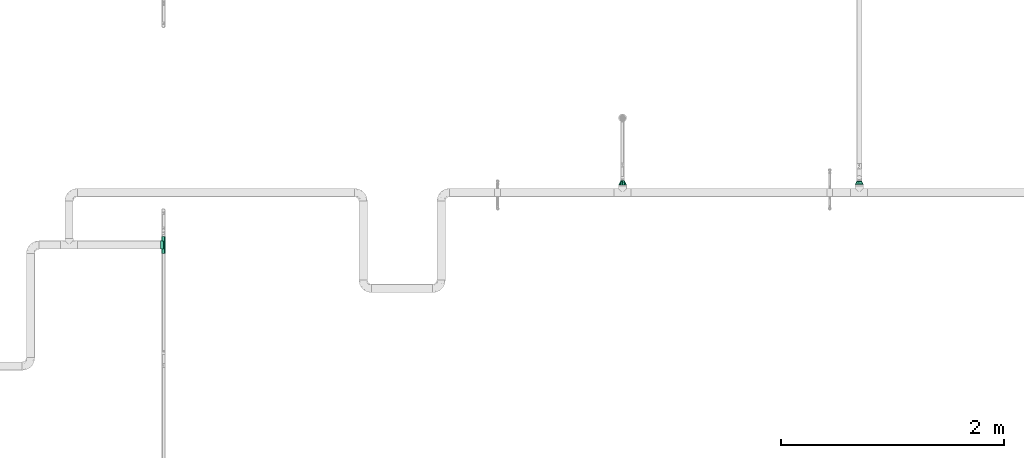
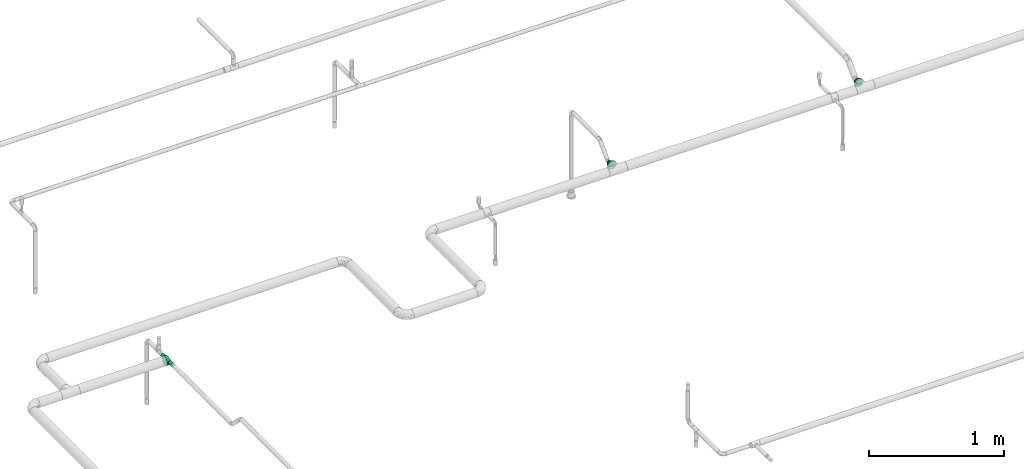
# One storey, part 47 of 51: 3 flow fittings.
"""IFC2X3 building model written with IfcOpenShell, lengths in millimetres."""

from ifc_helpers import new_model, entity, si_unit, converted_unit, derived_unit, direction, frame, origin_with_axes, place, context, subcontext, project, spatial, open_shell, surface_model, source, transform, mapped, type_object, element, save


model = new_model("IFC2X3")

# Units and contexts
model_context = context("Model", 3, precision=0.01, world=frame((0.0, 4.29681676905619e-09, 0.0)), true_north=direction((4.01073788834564e-13, 1.0)))
plan_context = context("Plan", 3, precision=0.01, world=frame((0.0, 4.29681676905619e-09, 0.0)), true_north=direction((4.01073788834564e-13, 1.0)))
body_context = subcontext(model_context, "Body", "Model", "MODEL_VIEW")
ifc_project = project(units=[converted_unit("PLANEANGLEUNIT", "DEGREE", entity("IfcPositiveLengthMeasure", 0.0174532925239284), si_unit("PLANEANGLEUNIT", "RADIAN"), dimensions=[0, 0, 0, 0, 0, 0, 0]), si_unit("AREAUNIT", "SQUARE_METRE"), si_unit("LENGTHUNIT", "METRE", prefix="MILLI"), si_unit("MASSUNIT", "GRAM", prefix="KILO"), si_unit("POWERUNIT", "WATT"), si_unit("PRESSUREUNIT", "PASCAL"), si_unit("FORCEUNIT", "NEWTON", prefix="KILO"), si_unit("ELECTRICVOLTAGEUNIT", "VOLT"), si_unit("ELECTRICCURRENTUNIT", "AMPERE"), si_unit("THERMODYNAMICTEMPERATUREUNIT", "DEGREE_CELSIUS"), si_unit("TIMEUNIT", "SECOND"), si_unit("VOLUMEUNIT", "CUBIC_METRE"), derived_unit("LINEARVELOCITYUNIT", [(si_unit("LENGTHUNIT", "METRE"), 1), (si_unit("TIMEUNIT", "SECOND"), -1)]), derived_unit("VOLUMETRICFLOWRATEUNIT", [(si_unit("VOLUMEUNIT", "CUBIC_METRE"), 1), (si_unit("TIMEUNIT", "SECOND"), -1)]), derived_unit("THERMALTRANSMITTANCEUNIT", [(si_unit("POWERUNIT", "WATT"), 1), (si_unit("THERMODYNAMICTEMPERATUREUNIT", "KELVIN"), -1), (si_unit("AREAUNIT", "SQUARE_METRE"), -1)]), derived_unit("SOUNDPRESSUREUNIT", [(si_unit("PRESSUREUNIT", "PASCAL"), 1)])], contexts=[model_context, plan_context])

# Site, building, storey
site_placement = place(None, frame((0.0, -4.29681676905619e-09, 0.0), z_axis=(0.0, 0.0, 1.0), x_axis=(1.0, 0.0, 0.0)))
site = spatial("IfcSite", under=ifc_project, at=site_placement, Name="ENGM", CompositionType="ELEMENT")
building_placement = place(site_placement, frame((0.0, 4.29681676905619e-09, 0.0), z_axis=(0.0, 0.0, 1.0), x_axis=(1.0, 0.0, 0.0)))
building = spatial("IfcBuilding", under=site, at=building_placement, Name="TH", CompositionType="ELEMENT")
storey_placement = place(building_placement, frame((0.0, 0.0, 210200.0), z_axis=(0.0, 0.0, 1.0), x_axis=(1.0, 0.0, 0.0)))
storey = spatial("IfcBuildingStorey", under=building, at=storey_placement, Name="Nivå F - 0,7 m", CompositionType="ELEMENT", Elevation=210200.0)

# Flow fittings
pipe_fitting_type_1 = type_object("IfcPipeFittingType", Name="magi_pipe_fe_reducer_centric_short_NOR", PredefinedType="TRANSITION")
shared_shape_1 = source(origin_with_axes(), body_context, "Body", "SurfaceModel", [
    surface_model("IfcShellBasedSurfaceModel", [(-2.0, 9.86101, 36.80177), (-2.0, -38.1, 0.0), (-2.0, 0.0, 38.1), (-2.0, 26.94077, 26.94077), (-2.0, 19.05, 32.99557), (-2.0, 32.99557, 19.05), (-2.0, 36.80177, 9.86101), (-2.0, -9.86101, 36.80177), (-2.0, -26.94077, 26.94077), (-2.0, -19.05, 32.99557), (-2.0, -32.99557, 19.05), (-2.0, -36.80177, 9.86101), (-2.0, 36.80177, -9.86101), (-2.0, -32.99557, -19.05), (-2.0, 9.86101, -36.80177), (-2.0, 32.99557, -19.05), (-2.0, 26.94077, -26.94077), (-2.0, 19.05, -32.99557), (-2.0, -26.94077, -26.94077), (-2.0, -36.80177, -9.86101), (-2.0, -19.05, -32.99557), (-2.0, 0.0, -38.1), (-2.0, -9.86101, -36.80177), (-2.0, 38.1, 0.0), (0.0, 9.86101, -36.80177), (0.0, 19.05, -32.99557), (0.0, 26.94077, -26.94077), (0.0, 36.80177, -9.86101), (0.0, -26.94077, -26.94077), (0.0, 32.99557, -19.05), (0.0, -38.1, 0.0), (0.0, 0.0, -38.1), (0.0, -19.05, -32.99557), (0.0, -9.86101, -36.80177), (0.0, -32.99557, -19.05), (0.0, -36.80177, -9.86101), (0.0, 38.1, 0.0), (0.0, 36.80177, 9.86101), (0.0, 32.99557, 19.05), (0.0, 26.94077, 26.94077), (0.0, 0.0, 38.1), (0.0, 9.86101, 36.80177), (0.0, 19.05, 32.99557), (0.0, -9.86101, 36.80177), (0.0, -32.99557, 19.05), (0.0, -36.80177, 9.86101), (0.0, -26.94077, 26.94077), (0.0, -19.05, 32.99557), (44.4, 4.37404, -16.32415), (44.4, 8.45, -14.63583), (44.4, 11.9501, -11.9501), (44.4, -8.45, -14.63583), (44.4, 16.32415, -4.37404), (44.4, 16.32415, 4.37404), (44.4, 14.63583, -8.45), (44.4, 0.0, -16.9), (44.4, -4.37404, -16.32415), (44.4, -11.9501, -11.9501), (44.4, -16.32415, -4.37404), (44.4, -14.63583, -8.45), (44.4, -16.32415, 4.37404), (44.4, 16.9, 0.0), (44.4, 14.63583, 8.45), (44.4, 11.9501, 11.9501), (44.4, 4.37404, 16.32415), (44.4, 0.0, 16.9), (44.4, 8.45, 14.63583), (44.4, -4.37404, 16.32415), (44.4, -14.63583, 8.45), (44.4, -16.9, 0.0), (44.4, -8.45, 14.63583), (44.4, -11.9501, 11.9501), (42.4, 4.37404, 16.32415), (42.4, -14.63583, 8.45), (42.4, 0.0, 16.9), (42.4, 16.32415, 4.37404), (42.4, 8.45, 14.63583), (42.4, 11.9501, 11.9501), (42.4, 14.63583, 8.45), (42.4, -8.45, 14.63583), (42.4, -11.9501, 11.9501), (42.4, -4.37404, 16.32415), (42.4, -16.32415, 4.37404), (42.4, -16.32415, -4.37404), (42.4, -16.9, 0.0), (42.4, -8.45, -14.63583), (42.4, 16.32415, -4.37404), (42.4, 11.9501, -11.9501), (42.4, 14.63583, -8.45), (42.4, 8.45, -14.63583), (42.4, 4.37404, -16.32415), (42.4, 0.0, -16.9), (42.4, -11.9501, -11.9501), (42.4, -14.63583, -8.45), (42.4, -4.37404, -16.32415), (42.4, 16.9, 0.0), (0.0, 26.02278, -26.02278), (42.4, 13.18758, -8.96258), (42.4, 14.42505, -5.97505), (42.4, 5.97505, -14.42505), (0.0, 9.525, -35.54778), (42.4, 2.98753, -15.66253), (0.0, 35.54778, -9.525), (42.4, -5.97505, -14.42505), (42.4, -8.96258, -13.18758), (42.4, -2.98753, -15.66253), (42.4, 8.96258, -13.18758), (42.4, -13.18758, -8.96258), (0.0, -26.02278, -26.02278), (42.4, -15.66253, -2.98753), (0.0, -35.54778, -9.525), (42.4, 15.66253, -2.98753), (0.0, -9.525, -35.54778), (42.4, -14.42505, -5.97505), (0.0, -26.02278, 26.02278), (42.4, -13.18758, 8.96258), (42.4, -14.42505, 5.97505), (42.4, -5.97505, 14.42505), (0.0, -9.525, 35.54778), (42.4, -2.98753, 15.66253), (0.0, -35.54778, 9.525), (42.4, 5.97505, 14.42505), (42.4, 8.96258, 13.18758), (42.4, 2.98753, 15.66253), (42.4, -8.96258, 13.18758), (42.4, 13.18758, 8.96258), (0.0, 26.02278, 26.02278), (42.4, 15.66253, 2.98753), (0.0, 35.54778, 9.525), (42.4, -15.66253, 2.98753), (0.0, 9.525, 35.54778), (42.4, 14.42505, 5.97505)], [open_shell([[[0, 1, 2]], [[3, 0, 4]], [[3, 5, 6]], [[3, 6, 0]], [[1, 0, 6]], [[7, 8, 9]], [[8, 7, 10]], [[10, 1, 11]], [[1, 10, 7]], [[7, 2, 1]], [[6, 12, 1]], [[13, 1, 12]], [[14, 12, 15]], [[16, 17, 14]], [[16, 14, 15]], [[13, 12, 14]], [[14, 18, 13]], [[19, 1, 13]], [[20, 21, 22]], [[20, 18, 14]], [[20, 14, 21]], [[6, 23, 12]], [[24, 25, 26]], [[24, 26, 27]], [[24, 27, 28]], [[27, 26, 29]], [[28, 27, 30]], [[31, 32, 33]], [[31, 24, 32]], [[28, 32, 24]], [[28, 30, 34]], [[34, 30, 35]], [[27, 36, 37]], [[37, 38, 39]], [[37, 39, 40]], [[41, 40, 39]], [[41, 39, 42]], [[37, 40, 43]], [[30, 44, 45]], [[44, 30, 43]], [[46, 43, 47]], [[43, 46, 44]], [[30, 37, 43]], [[37, 30, 27]], [[19, 35, 1]], [[13, 34, 19]], [[32, 18, 20]], [[13, 18, 28]], [[33, 20, 22]], [[19, 34, 35]], [[35, 30, 1]], [[33, 32, 20]], [[28, 18, 32]], [[28, 34, 13]], [[31, 33, 22]], [[22, 21, 31]], [[14, 24, 21]], [[17, 25, 14]], [[29, 16, 15]], [[17, 16, 26]], [[27, 15, 12]], [[17, 26, 25]], [[25, 24, 14]], [[36, 27, 12]], [[29, 15, 27]], [[29, 26, 16]], [[23, 36, 12]], [[21, 24, 31]], [[6, 37, 23]], [[5, 38, 6]], [[42, 3, 4]], [[5, 3, 39]], [[41, 4, 0]], [[6, 38, 37]], [[37, 36, 23]], [[41, 42, 4]], [[39, 3, 42]], [[39, 38, 5]], [[40, 41, 0]], [[0, 2, 40]], [[7, 43, 2]], [[9, 47, 7]], [[44, 8, 10]], [[9, 8, 46]], [[45, 10, 11]], [[9, 46, 47]], [[47, 43, 7]], [[30, 45, 11]], [[44, 10, 45]], [[44, 46, 8]], [[1, 30, 11]], [[2, 43, 40]], [[29, 25, 38]], [[30, 32, 34]], [[30, 31, 32]], [[36, 29, 38]], [[48, 49, 50]], [[51, 48, 50]], [[50, 52, 53]], [[52, 50, 54]], [[50, 53, 51]], [[55, 51, 56]], [[55, 48, 51]], [[57, 58, 59]], [[58, 57, 51]], [[51, 60, 58]], [[53, 52, 61]], [[53, 62, 63]], [[53, 63, 64]], [[64, 65, 53]], [[64, 63, 66]], [[53, 65, 67]], [[53, 68, 60]], [[69, 58, 60]], [[68, 70, 71]], [[70, 68, 67]], [[67, 68, 53]], [[60, 51, 53]], [[72, 73, 74]], [[75, 72, 76]], [[77, 78, 75]], [[77, 75, 76]], [[73, 72, 75]], [[79, 73, 80]], [[79, 81, 74]], [[74, 73, 79]], [[82, 73, 75]], [[82, 83, 84]], [[82, 75, 85]], [[75, 86, 87]], [[87, 86, 88]], [[87, 89, 90]], [[85, 75, 87]], [[90, 91, 87]], [[83, 92, 93]], [[92, 83, 85]], [[85, 91, 94]], [[83, 82, 85]], [[87, 91, 85]], [[86, 75, 95]], [[83, 58, 84]], [[93, 59, 83]], [[51, 92, 85]], [[93, 92, 57]], [[56, 85, 94]], [[83, 59, 58]], [[58, 69, 84]], [[56, 51, 85]], [[57, 92, 51]], [[57, 59, 93]], [[55, 56, 94]], [[94, 91, 55]], [[90, 48, 91]], [[89, 49, 90]], [[54, 87, 88]], [[89, 87, 50]], [[52, 88, 86]], [[89, 50, 49]], [[49, 48, 90]], [[61, 52, 86]], [[54, 88, 52]], [[54, 50, 87]], [[95, 61, 86]], [[91, 48, 55]], [[75, 53, 95]], [[78, 62, 75]], [[66, 77, 76]], [[78, 77, 63]], [[64, 76, 72]], [[75, 62, 53]], [[53, 61, 95]], [[64, 66, 76]], [[63, 77, 66]], [[63, 62, 78]], [[65, 64, 72]], [[72, 74, 65]], [[81, 67, 74]], [[79, 70, 81]], [[68, 80, 73]], [[79, 80, 71]], [[60, 73, 82]], [[79, 71, 70]], [[70, 67, 81]], [[69, 60, 82]], [[68, 73, 60]], [[68, 71, 80]], [[84, 69, 82]], [[74, 67, 65]], [[74, 80, 95]], [[95, 77, 74]], [[80, 92, 95]], [[91, 95, 92]], [[87, 95, 91]], [[92, 80, 84]], [[47, 40, 42]], [[30, 42, 38]], [[47, 30, 44]], [[30, 47, 42]], [[38, 31, 30]], [[25, 31, 38]], [[96, 97, 87]], [[29, 98, 97]], [[99, 100, 25]], [[101, 31, 100]], [[98, 29, 102]], [[32, 103, 104]], [[105, 31, 91]], [[100, 99, 101]], [[29, 97, 96]], [[106, 99, 25]], [[107, 108, 92]], [[101, 91, 31]], [[92, 108, 104]], [[30, 109, 84]], [[96, 106, 25]], [[109, 30, 110]], [[102, 111, 98]], [[95, 111, 36]], [[31, 105, 112]], [[107, 113, 34]], [[36, 111, 102]], [[110, 113, 109]], [[34, 113, 110]], [[103, 32, 112]], [[106, 96, 87]], [[108, 107, 34]], [[32, 104, 108]], [[105, 103, 112]], [[114, 115, 80]], [[44, 116, 115]], [[117, 118, 47]], [[119, 40, 118]], [[116, 44, 120]], [[42, 121, 122]], [[123, 40, 74]], [[118, 117, 119]], [[44, 115, 114]], [[124, 117, 47]], [[125, 126, 77]], [[119, 74, 40]], [[77, 126, 122]], [[36, 127, 95]], [[114, 124, 47]], [[127, 36, 128]], [[120, 129, 116]], [[84, 129, 30]], [[40, 123, 130]], [[125, 131, 38]], [[30, 129, 120]], [[128, 131, 127]], [[38, 131, 128]], [[121, 42, 130]], [[124, 114, 80]], [[126, 125, 38]], [[42, 122, 126]], [[123, 121, 130]]])]),
])
flow_fitting_1_placement = place(storey_placement, frame((901220.93402, 484396.91823, 2933.0), z_axis=(0.0, 0.0, 1.0), x_axis=(0.0, 1.0, 0.0)))
element("IfcFlowFitting", 1, at=flow_fitting_1_placement, inside=storey, type_object=pipe_fitting_type_1, Name="magi_pipe_fe_reducer_centric_short_NOR", context=body_context, shape_type="MappedRepresentation", body=[
    mapped(shared_shape_1, transform((0.0, 0.0, 0.0), scale=1.0)),
])
shared_shape_2 = source(origin_with_axes(), body_context, "Body", "SurfaceModel", [
    surface_model("IfcShellBasedSurfaceModel", [(-2.0, 9.86101, 36.80177), (-2.0, -38.1, 0.0), (-2.0, 0.0, 38.1), (-2.0, 26.94077, 26.94077), (-2.0, 19.05, 32.99557), (-2.0, 32.99557, 19.05), (-2.0, 36.80177, 9.86101), (-2.0, -9.86101, 36.80177), (-2.0, -26.94077, 26.94077), (-2.0, -19.05, 32.99557), (-2.0, -32.99557, 19.05), (-2.0, -36.80177, 9.86101), (-2.0, 36.80177, -9.86101), (-2.0, -32.99557, -19.05), (-2.0, 9.86101, -36.80177), (-2.0, 32.99557, -19.05), (-2.0, 26.94077, -26.94077), (-2.0, 19.05, -32.99557), (-2.0, -26.94077, -26.94077), (-2.0, -36.80177, -9.86101), (-2.0, -19.05, -32.99557), (-2.0, 0.0, -38.1), (-2.0, -9.86101, -36.80177), (-2.0, 38.1, 0.0), (0.0, 9.86101, -36.80177), (0.0, 19.05, -32.99557), (0.0, 26.94077, -26.94077), (0.0, 36.80177, -9.86101), (0.0, -26.94077, -26.94077), (0.0, 32.99557, -19.05), (0.0, -38.1, 0.0), (0.0, 0.0, -38.1), (0.0, -19.05, -32.99557), (0.0, -9.86101, -36.80177), (0.0, -32.99557, -19.05), (0.0, -36.80177, -9.86101), (0.0, 38.1, 0.0), (0.0, 36.80177, 9.86101), (0.0, 32.99557, 19.05), (0.0, 26.94077, 26.94077), (0.0, 0.0, 38.1), (0.0, 9.86101, 36.80177), (0.0, 19.05, 32.99557), (0.0, -9.86101, 36.80177), (0.0, -32.99557, 19.05), (0.0, -36.80177, 9.86101), (0.0, -26.94077, 26.94077), (0.0, -19.05, 32.99557), (29.8, 12.1, -20.95781), (29.8, -24.2, 0.0), (29.8, 6.26342, -23.37541), (29.8, 23.37541, -6.26342), (29.8, 17.11198, -17.11198), (29.8, 20.95781, -12.1), (29.8, -17.11198, -17.11198), (29.8, -6.26342, -23.37541), (29.8, -12.1, -20.95781), (29.8, 0.0, -24.2), (29.8, -23.37541, -6.26342), (29.8, -20.95781, -12.1), (29.8, 24.2, 0.0), (29.8, 23.37541, 6.26342), (29.8, 20.95781, 12.1), (29.8, 17.11198, 17.11198), (29.8, 12.1, 20.95781), (29.8, 6.26342, 23.37541), (29.8, 0.0, 24.2), (29.8, -23.37541, 6.26342), (29.8, -17.11198, 17.11198), (29.8, -20.95781, 12.1), (29.8, -6.26342, 23.37541), (29.8, -12.1, 20.95781), (27.8, 0.0, 24.2), (27.8, 6.26342, 23.37541), (27.8, 12.1, 20.95781), (27.8, 17.11198, 17.11198), (27.8, 20.95781, 12.1), (27.8, 23.37541, 6.26342), (27.8, -23.37541, 6.26342), (27.8, -17.11198, -17.11198), (27.8, -17.11198, 17.11198), (27.8, -12.1, 20.95781), (27.8, -6.26342, 23.37541), (27.8, -20.95781, 12.1), (27.8, -24.2, 0.0), (27.8, 24.2, 0.0), (27.8, 17.11198, -17.11198), (27.8, 23.37541, -6.26342), (27.8, 20.95781, -12.1), (27.8, 12.1, -20.95781), (27.8, 6.26342, -23.37541), (27.8, -23.37541, -6.26342), (27.8, -20.95781, -12.1), (27.8, -6.26342, -23.37541), (27.8, -12.1, -20.95781), (27.8, 0.0, -24.2), (27.8, -7.47821, 23.01557), (27.8, -19.57821, 14.2244), (27.8, 19.57821, 14.2244), (27.8, 7.47821, 23.01557), (27.8, -7.47821, -23.01557), (27.8, -19.57821, -14.2244), (27.8, 7.47821, -23.01557), (27.8, 19.57821, -14.2244), (0.0, 9.525, -35.54778), (0.0, -9.525, -35.54778), (27.8, 0.0, -23.01557), (27.8, 13.52821, -18.61999), (0.0, 26.02278, -26.02278), (27.8, 21.8891, -7.1122), (0.0, 35.43294, -9.95361), (27.8, -13.52821, -18.61999), (27.8, -21.8891, -7.1122), (0.0, -35.43294, -9.95361), (0.0, -26.02278, -26.02278), (0.0, -9.525, 35.54778), (0.0, 9.525, 35.54778), (27.8, 0.0, 23.01557), (27.8, -13.52821, 18.61999), (0.0, -26.02278, 26.02278), (27.8, -21.8891, 7.1122), (0.0, -35.43294, 9.95361), (27.8, 13.52821, 18.61999), (27.8, 21.8891, 7.1122), (0.0, 35.43294, 9.95361), (0.0, 26.02278, 26.02278)], [open_shell([[[0, 1, 2]], [[3, 0, 4]], [[3, 5, 6]], [[3, 6, 0]], [[1, 0, 6]], [[7, 8, 9]], [[8, 7, 10]], [[10, 1, 11]], [[1, 10, 7]], [[7, 2, 1]], [[6, 12, 1]], [[13, 1, 12]], [[14, 12, 15]], [[16, 17, 14]], [[16, 14, 15]], [[13, 12, 14]], [[14, 18, 13]], [[19, 1, 13]], [[20, 21, 22]], [[20, 18, 14]], [[20, 14, 21]], [[6, 23, 12]], [[24, 25, 26]], [[24, 26, 27]], [[24, 27, 28]], [[27, 26, 29]], [[28, 27, 30]], [[31, 32, 33]], [[31, 24, 32]], [[28, 32, 24]], [[28, 30, 34]], [[34, 30, 35]], [[27, 36, 37]], [[37, 38, 39]], [[37, 39, 40]], [[41, 40, 39]], [[41, 39, 42]], [[37, 40, 43]], [[30, 44, 45]], [[44, 30, 43]], [[46, 43, 47]], [[43, 46, 44]], [[30, 37, 43]], [[37, 30, 27]], [[19, 35, 1]], [[13, 34, 19]], [[32, 18, 20]], [[13, 18, 28]], [[33, 20, 22]], [[19, 34, 35]], [[35, 30, 1]], [[33, 32, 20]], [[28, 18, 32]], [[28, 34, 13]], [[31, 33, 22]], [[22, 21, 31]], [[14, 24, 21]], [[17, 25, 14]], [[29, 16, 15]], [[17, 16, 26]], [[27, 15, 12]], [[17, 26, 25]], [[25, 24, 14]], [[36, 27, 12]], [[29, 15, 27]], [[29, 26, 16]], [[23, 36, 12]], [[21, 24, 31]], [[6, 37, 23]], [[5, 38, 6]], [[42, 3, 4]], [[5, 3, 39]], [[41, 4, 0]], [[6, 38, 37]], [[37, 36, 23]], [[41, 42, 4]], [[39, 3, 42]], [[39, 38, 5]], [[40, 41, 0]], [[0, 2, 40]], [[7, 43, 2]], [[9, 47, 7]], [[44, 8, 10]], [[9, 8, 46]], [[45, 10, 11]], [[9, 46, 47]], [[47, 43, 7]], [[30, 45, 11]], [[44, 10, 45]], [[44, 46, 8]], [[1, 30, 11]], [[2, 43, 40]], [[40, 42, 38]], [[40, 38, 44]], [[40, 44, 47]], [[44, 38, 30]], [[29, 25, 38]], [[30, 32, 34]], [[30, 31, 32]], [[36, 29, 38]], [[38, 31, 30]], [[25, 31, 38]], [[48, 49, 50]], [[51, 48, 52]], [[48, 51, 49]], [[51, 52, 53]], [[49, 54, 50]], [[55, 54, 56]], [[55, 57, 50]], [[54, 58, 59]], [[55, 50, 54]], [[54, 49, 58]], [[60, 49, 51]], [[61, 62, 63]], [[60, 63, 49]], [[64, 65, 66]], [[64, 66, 63]], [[49, 63, 66]], [[67, 68, 69]], [[70, 67, 49]], [[68, 70, 71]], [[70, 68, 67]], [[49, 66, 70]], [[63, 60, 61]], [[72, 73, 74]], [[72, 74, 75]], [[75, 76, 77]], [[72, 75, 78]], [[75, 79, 78]], [[72, 80, 81]], [[81, 82, 72]], [[80, 78, 83]], [[78, 80, 72]], [[78, 79, 84]], [[75, 77, 85]], [[86, 85, 87]], [[86, 87, 88]], [[89, 90, 85]], [[89, 85, 86]], [[90, 79, 75]], [[91, 79, 92]], [[84, 79, 91]], [[79, 93, 94]], [[79, 90, 93]], [[95, 93, 90]], [[75, 85, 90]], [[91, 58, 84]], [[92, 59, 91]], [[56, 79, 94]], [[92, 79, 54]], [[55, 94, 93]], [[91, 59, 58]], [[58, 49, 84]], [[55, 56, 94]], [[54, 79, 56]], [[54, 59, 92]], [[57, 55, 93]], [[93, 95, 57]], [[90, 50, 95]], [[89, 48, 90]], [[53, 86, 88]], [[89, 86, 52]], [[51, 88, 87]], [[89, 52, 48]], [[48, 50, 90]], [[60, 51, 87]], [[53, 88, 51]], [[53, 52, 86]], [[85, 60, 87]], [[95, 50, 57]], [[77, 61, 85]], [[76, 62, 77]], [[64, 75, 74]], [[76, 75, 63]], [[65, 74, 73]], [[77, 62, 61]], [[61, 60, 85]], [[65, 64, 74]], [[63, 75, 64]], [[63, 62, 76]], [[66, 65, 73]], [[73, 72, 66]], [[82, 70, 72]], [[81, 71, 82]], [[69, 80, 83]], [[81, 80, 68]], [[67, 83, 78]], [[81, 68, 71]], [[71, 70, 82]], [[49, 67, 78]], [[69, 83, 67]], [[69, 68, 80]], [[84, 49, 78]], [[72, 70, 66]], [[96, 97, 98]], [[96, 98, 99]], [[98, 97, 85]], [[97, 100, 85]], [[100, 97, 101]], [[102, 103, 85]], [[85, 100, 102]], [[97, 84, 101]], [[104, 25, 102]], [[100, 105, 106]], [[107, 108, 103]], [[29, 109, 103]], [[110, 85, 109]], [[32, 100, 111]], [[29, 110, 109]], [[34, 112, 113]], [[108, 107, 25]], [[29, 103, 108]], [[113, 112, 84]], [[101, 34, 114]], [[85, 110, 36]], [[100, 32, 105]], [[107, 102, 25]], [[114, 111, 101]], [[112, 34, 101]], [[84, 30, 113]], [[32, 111, 114]], [[106, 105, 31]], [[104, 106, 31]], [[106, 104, 102]], [[115, 47, 96]], [[99, 116, 117]], [[118, 119, 97]], [[44, 120, 97]], [[121, 84, 120]], [[42, 99, 122]], [[44, 121, 120]], [[38, 123, 124]], [[119, 118, 47]], [[44, 97, 119]], [[124, 123, 85]], [[98, 38, 125]], [[84, 121, 30]], [[99, 42, 116]], [[118, 96, 47]], [[125, 122, 98]], [[123, 38, 98]], [[85, 36, 124]], [[42, 122, 125]], [[117, 116, 40]], [[115, 117, 40]], [[117, 115, 96]]])]),
])
flow_fitting_2_placement = place(storey_placement, frame((903344.15403, 484402.56725, 2933.0), z_axis=(0.0, 0.0, 1.0), x_axis=(0.0, 1.0, 0.0)))
element("IfcFlowFitting", 2, at=flow_fitting_2_placement, inside=storey, type_object=pipe_fitting_type_1, Name="magi_pipe_fe_reducer_centric_short_NOR", context=body_context, shape_type="MappedRepresentation", body=[
    mapped(shared_shape_2, transform((0.0, 0.0, 0.0), scale=1.0)),
])
pipe_fitting_type_2 = type_object("IfcPipeFittingType", Name="magi_pipe_fe_tee_centric_90_NOR", PredefinedType="JUNCTION")
shared_shape_3 = source(origin_with_axes(), body_context, "Body", "SurfaceModel", [
    surface_model("IfcShellBasedSurfaceModel", [(-76.2, 0.0, -16.9), (-76.2, -16.9, 0.0), (-76.2, 4.37404, -16.32415), (-76.2, 8.45, -14.63583), (-76.2, 11.9501, -11.9501), (-76.2, 16.32415, -4.37404), (-76.2, 14.63583, -8.45), (-76.2, -11.9501, -11.9501), (-76.2, -14.63583, -8.45), (-76.2, -8.45, -14.63583), (-76.2, -4.37404, -16.32415), (-76.2, -16.32415, -4.37404), (-76.2, -16.32415, 4.37404), (-76.2, 16.32415, 4.37404), (-76.2, 16.9, 0.0), (-76.2, 8.45, 14.63583), (-76.2, 14.63583, 8.45), (-76.2, -8.45, 14.63583), (-76.2, 11.9501, 11.9501), (-76.2, 4.37404, 16.32415), (-76.2, -11.9501, 11.9501), (-76.2, -14.63583, 8.45), (-76.2, -4.37404, 16.32415), (-76.2, 0.0, 16.9), (76.2, 4.37404, -16.32415), (76.2, -8.45, 14.63583), (76.2, 0.0, -16.9), (76.2, 11.9501, -11.9501), (76.2, 8.45, -14.63583), (76.2, 14.63583, -8.45), (76.2, 16.32415, -4.37404), (76.2, -8.45, -14.63583), (76.2, -14.63583, -8.45), (76.2, -11.9501, -11.9501), (76.2, -4.37404, -16.32415), (76.2, -16.9, 0.0), (76.2, -16.32415, -4.37404), (76.2, 16.32415, 4.37404), (76.2, 14.63583, 8.45), (76.2, 8.45, 14.63583), (76.2, 11.9501, 11.9501), (76.2, 4.37404, 16.32415), (76.2, -14.63583, 8.45), (76.2, -11.9501, 11.9501), (76.2, -16.32415, 4.37404), (76.2, 0.0, 16.9), (76.2, -4.37404, 16.32415), (76.2, 16.9, 0.0), (76.2, -16.61207, 2.18702), (37.90927, -16.46551, 3.80749), (37.64296, -15.83232, 5.59822), (38.00464, -16.68275, 1.90374), (76.2, -15.47999, 6.41202), (76.2, -13.29297, 10.20005), (36.99135, -14.19508, 8.97668), (37.37664, -15.19913, 7.38895), (35.33657, -8.96218, 14.20473), (76.2, -10.20005, 13.29297), (36.60606, -13.19103, 10.5644), (36.17239, -11.86941, 11.88437), (34.93443, -7.37659, 15.20513), (-37.90927, -16.46551, 3.80749), (-76.2, -16.61207, 2.18702), (-36.60606, -13.19103, 10.5644), (-36.17239, -11.86941, 11.88437), (-37.37664, -15.19913, 7.38895), (-76.2, -15.47999, 6.41202), (-37.64296, -15.83232, 5.59822), (-38.00464, -16.68275, 1.90374), (-38.1, -16.9, 0.0), (35.73871, -10.54778, 13.20433), (38.1, -16.9, 0.0), (-35.73871, -10.54778, 13.20433), (-76.2, -10.20005, 13.29297), (-35.33657, -8.96218, 14.20473), (-34.93443, -7.37659, 15.20513), (-76.2, -13.29297, 10.20005), (-36.99135, -14.19508, 8.97668), (-76.2, -6.41202, 15.47999), (76.2, -6.41202, 15.47999), (34.35774, -3.80189, 16.4668), (34.14674, 0.0, 16.9), (34.64608, -5.58924, 15.83597), (-34.14674, 0.0, 16.9), (-34.35774, -3.80189, 16.4668), (-34.64608, -5.58924, 15.83597), (37.64296, -15.83232, -5.59822), (76.2, -15.47999, -6.41202), (-35.73871, -10.54778, -13.20433), (-36.17239, -11.86941, -11.88437), (-76.2, -15.47999, -6.41202), (-37.37664, -15.19913, -7.38895), (-37.64296, -15.83232, -5.59822), (34.35774, -3.80189, -16.4668), (34.14674, 0.0, -16.9), (-37.90927, -16.46551, -3.80749), (-76.2, -10.20005, -13.29297), (-34.14674, 0.0, -16.9), (-76.2, -13.29297, -10.20005), (-36.99135, -14.19508, -8.97668), (-34.64608, -5.58924, -15.83597), (-76.2, -6.41202, -15.47999), (-34.35774, -3.80189, -16.4668), (-38.00464, -16.68275, -1.90374), (-36.60606, -13.19103, -10.5644), (-34.93443, -7.37659, -15.20513), (76.2, -6.41202, -15.47999), (34.64608, -5.58924, -15.83597), (38.00464, -16.68275, -1.90374), (76.2, -16.61207, -2.18702), (36.99135, -14.19508, -8.97668), (76.2, -13.29297, -10.20005), (35.73871, -10.54778, -13.20433), (76.2, -10.20005, -13.29297), (36.17239, -11.86941, -11.88437), (36.60606, -13.19103, -10.5644), (35.33657, -8.96218, -14.20473), (34.93443, -7.37659, -15.20513), (37.37664, -15.19913, -7.38895), (37.90927, -16.46551, -3.80749), (-35.33657, -8.96218, -14.20473), (-76.2, -16.61207, -2.18702), (0.0, -25.35, -38.1), (9.86101, -25.35, -36.80177), (19.05, -25.35, -32.99557), (26.94077, -25.35, -26.94077), (32.99557, -25.35, -19.05), (36.80177, -25.35, -9.86101), (0.0, -25.35, 38.1), (-26.94077, -25.35, -26.94077), (-9.86101, -25.35, -36.80177), (-19.05, -25.35, -32.99557), (-36.80177, -25.35, -9.86101), (-32.99557, -25.35, -19.05), (-32.99557, -25.35, 19.05), (-36.80177, -25.35, 9.86101), (-38.1, -25.35, 0.0), (19.05, -25.35, 32.99557), (36.80177, -25.35, 9.86101), (32.99557, -25.35, 19.05), (26.94077, -25.35, 26.94077), (9.86101, -25.35, 36.80177), (-26.94077, -25.35, 26.94077), (-19.05, -25.35, 32.99557), (-9.86101, -25.35, 36.80177), (38.1, -25.35, 0.0), (-37.45089, -25.35, 4.9305), (-23.55563, 0.0, 29.94565), (-29.5765, 0.0, 24.0175), (-16.37729, 0.0, 34.4005), (-8.3948, 0.0, 37.16365), (-0.00032, 0.0, 38.1), (8.3941, 0.0, 37.16382), (16.37638, 0.0, 34.40093), (23.55452, 0.0, 29.94653), (37.45089, -25.35, 4.9305), (29.57561, 0.0, 24.0186), (37.45089, -25.35, -4.9305), (29.57561, 0.0, -24.0186), (16.37638, 0.0, -34.40093), (23.55452, 0.0, -29.94653), (8.3941, 0.0, -37.16382), (-0.00032, 0.0, -38.1), (-37.45089, -25.35, -4.9305), (-23.55563, 0.0, -29.94565), (-29.5765, 0.0, -24.0175), (-16.37729, 0.0, -34.4005), (-8.3948, 0.0, -37.16365)], [open_shell([[[0, 1, 2]], [[3, 2, 4]], [[2, 5, 6]], [[4, 2, 6]], [[5, 2, 1]], [[7, 8, 9]], [[0, 10, 9]], [[11, 1, 8]], [[9, 8, 1]], [[9, 1, 0]], [[1, 12, 5]], [[13, 14, 15]], [[16, 13, 15]], [[17, 15, 14]], [[18, 16, 15]], [[19, 15, 17]], [[20, 17, 21]], [[12, 21, 17]], [[22, 23, 17]], [[14, 12, 17]], [[17, 23, 19]], [[5, 12, 14]], [[24, 25, 26]], [[27, 24, 28]], [[29, 30, 24]], [[29, 24, 27]], [[31, 26, 25]], [[31, 32, 33]], [[31, 34, 26]], [[32, 35, 36]], [[35, 32, 31]], [[31, 25, 35]], [[30, 25, 24]], [[30, 37, 38]], [[38, 39, 30]], [[39, 25, 30]], [[39, 38, 40]], [[39, 41, 25]], [[42, 25, 43]], [[25, 42, 44]], [[25, 45, 46]], [[44, 35, 25]], [[41, 45, 25]], [[37, 30, 47]], [[48, 44, 49]], [[44, 50, 49]], [[35, 48, 51]], [[44, 52, 50]], [[53, 54, 42]], [[52, 42, 55]], [[25, 56, 57]], [[43, 58, 53]], [[58, 43, 59]], [[25, 60, 56]], [[42, 54, 55]], [[61, 12, 62]], [[20, 63, 64]], [[65, 66, 67]], [[54, 53, 58]], [[61, 62, 68]], [[68, 1, 69]], [[70, 43, 57]], [[12, 61, 67]], [[35, 51, 71]], [[20, 64, 72]], [[43, 70, 59]], [[73, 74, 17]], [[17, 74, 75]], [[76, 21, 77]], [[20, 72, 73]], [[52, 55, 50]], [[48, 49, 51]], [[75, 78, 17]], [[76, 77, 63]], [[21, 65, 77]], [[60, 25, 79]], [[57, 56, 70]], [[80, 45, 81]], [[79, 82, 60]], [[82, 46, 80]], [[80, 46, 45]], [[63, 20, 76]], [[81, 45, 41]], [[38, 37, 13]], [[18, 39, 40]], [[16, 40, 38]], [[41, 39, 15]], [[14, 37, 47]], [[23, 83, 19]], [[74, 73, 72]], [[22, 84, 23]], [[85, 22, 78]], [[23, 84, 83]], [[78, 75, 85]], [[83, 81, 19]], [[22, 85, 84]], [[41, 19, 81]], [[15, 19, 41]], [[1, 68, 62]], [[15, 39, 18]], [[16, 18, 40]], [[13, 16, 38]], [[37, 14, 13]], [[12, 67, 66]], [[65, 21, 66]], [[46, 82, 79]], [[4, 29, 27]], [[36, 86, 87]], [[7, 88, 89]], [[90, 91, 92]], [[29, 5, 30]], [[5, 47, 30]], [[28, 3, 27]], [[26, 34, 93]], [[26, 94, 24]], [[94, 26, 93]], [[11, 92, 95]], [[28, 24, 2]], [[88, 7, 96]], [[94, 97, 24]], [[98, 99, 8]], [[14, 47, 5]], [[29, 4, 6]], [[4, 27, 3]], [[10, 100, 101]], [[6, 5, 29]], [[0, 97, 102]], [[1, 103, 69]], [[99, 98, 104]], [[100, 105, 101]], [[97, 0, 2]], [[0, 102, 10]], [[10, 102, 100]], [[2, 3, 28]], [[97, 2, 24]], [[106, 107, 34]], [[35, 108, 109]], [[32, 110, 111]], [[33, 112, 113]], [[112, 33, 114]], [[115, 33, 111]], [[31, 116, 117]], [[110, 115, 111]], [[71, 108, 35]], [[33, 115, 114]], [[118, 87, 86]], [[119, 109, 108]], [[119, 36, 109]], [[106, 117, 107]], [[86, 36, 119]], [[9, 105, 120]], [[96, 120, 88]], [[34, 107, 93]], [[96, 9, 120]], [[7, 89, 104]], [[7, 104, 98]], [[116, 113, 112]], [[105, 9, 101]], [[118, 32, 87]], [[32, 118, 110]], [[1, 121, 103]], [[11, 90, 92]], [[91, 90, 8]], [[11, 95, 121]], [[121, 95, 103]], [[91, 8, 99]], [[113, 116, 31]], [[31, 117, 106]], [[122, 123, 124]], [[122, 124, 125]], [[125, 126, 127]], [[125, 127, 122]], [[128, 129, 122]], [[130, 129, 131]], [[130, 122, 129]], [[129, 132, 133]], [[129, 134, 132]], [[132, 135, 136]], [[137, 122, 127]], [[138, 139, 127]], [[127, 139, 137]], [[137, 128, 122]], [[137, 139, 140]], [[128, 137, 141]], [[134, 128, 142]], [[135, 132, 134]], [[143, 128, 144]], [[128, 143, 142]], [[128, 134, 129]], [[138, 127, 145]], [[69, 136, 61]], [[65, 61, 146]], [[146, 135, 65]], [[135, 134, 72]], [[147, 142, 143]], [[142, 148, 134]], [[135, 63, 65]], [[149, 143, 144]], [[63, 135, 72]], [[61, 136, 146]], [[75, 134, 84]], [[83, 84, 148]], [[134, 75, 72]], [[143, 149, 147]], [[134, 148, 84]], [[147, 148, 142]], [[149, 144, 150]], [[150, 128, 151]], [[150, 144, 128]], [[141, 152, 128]], [[153, 141, 137]], [[137, 140, 154]], [[70, 139, 138]], [[49, 145, 71]], [[145, 49, 155]], [[140, 139, 156]], [[55, 138, 155]], [[80, 81, 156]], [[137, 154, 153]], [[154, 140, 156]], [[153, 152, 141]], [[138, 58, 70]], [[80, 156, 139]], [[80, 139, 60]], [[55, 155, 49]], [[70, 60, 139]], [[138, 55, 58]], [[128, 152, 151]], [[127, 118, 157]], [[119, 71, 145]], [[157, 118, 119]], [[126, 125, 158]], [[159, 124, 123]], [[124, 160, 125]], [[127, 126, 112]], [[161, 123, 122]], [[118, 127, 115]], [[112, 126, 117]], [[117, 126, 93]], [[127, 112, 115]], [[158, 125, 160]], [[158, 94, 93]], [[93, 126, 158]], [[124, 159, 160]], [[161, 159, 123]], [[122, 162, 161]], [[91, 163, 95]], [[164, 131, 129]], [[119, 145, 157]], [[129, 133, 165]], [[166, 130, 131]], [[163, 136, 95]], [[91, 132, 163]], [[69, 95, 136]], [[133, 132, 88]], [[104, 132, 91]], [[164, 129, 165]], [[130, 166, 167]], [[131, 164, 166]], [[162, 122, 167]], [[88, 105, 133]], [[102, 97, 165]], [[102, 165, 133]], [[102, 133, 105]], [[88, 132, 104]], [[167, 122, 130]], [[149, 81, 147]], [[83, 148, 81]], [[147, 81, 148]], [[154, 156, 81]], [[153, 154, 150]], [[152, 153, 151]], [[81, 149, 150]], [[151, 153, 150]], [[154, 81, 150]], [[161, 162, 160]], [[167, 166, 162]], [[162, 166, 94]], [[160, 159, 161]], [[94, 158, 160]], [[94, 166, 165]], [[166, 164, 165]], [[97, 94, 165]], [[160, 162, 94]]])]),
])
flow_fitting_3_placement = place(storey_placement, frame((897100.0, 483859.45519, 2933.0), z_axis=(0.0, 0.0, -1.0), x_axis=(0.0, 1.0, 0.0)))
element("IfcFlowFitting", 3, at=flow_fitting_3_placement, inside=storey, type_object=pipe_fitting_type_2, Name="magi_pipe_fe_tee_centric_90_NOR", context=body_context, shape_type="MappedRepresentation", body=[
    mapped(shared_shape_3, transform((0.0, 0.0, 0.0), scale=1.0)),
])

save(model, "model.ifc")
